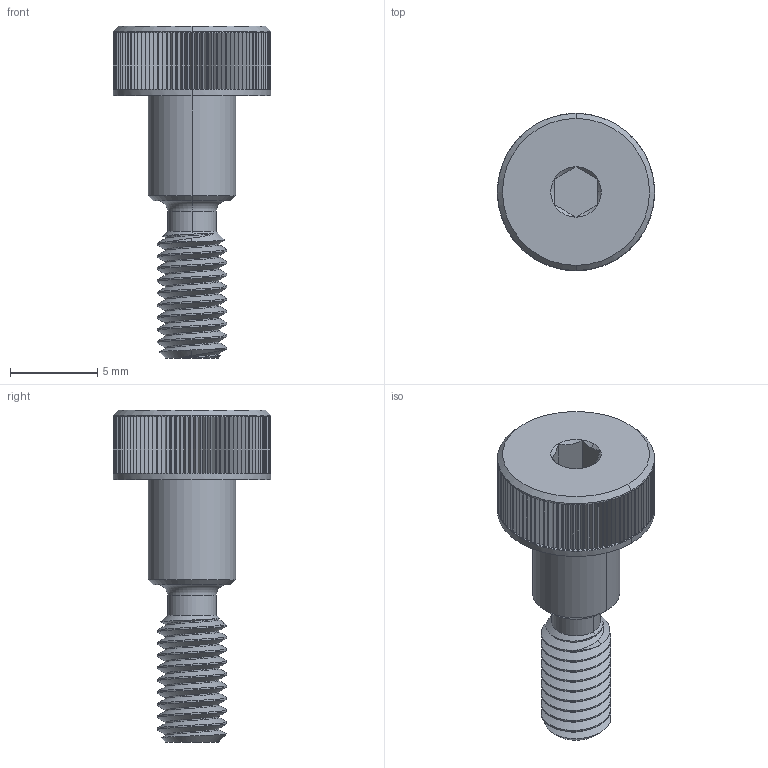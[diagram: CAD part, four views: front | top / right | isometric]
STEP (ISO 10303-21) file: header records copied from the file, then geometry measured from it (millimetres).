
FILE_DESCRIPTION (( 'STEP AP203' ), '1' );
FILE_NAME ('92981A146.STEP', '2018-01-15T16:16:09', ( '' ), ( '' ), 'SwSTEP 2.0', 'SolidWorks 2014', '' );
FILE_SCHEMA (( 'CONFIG_CONTROL_DESIGN' ));
Length unit declared in the file: millimetre
Products named in the file (1): 92981A146
Bounding box: 9 x 9 x 19 mm (x, y, z)
Volume: 430.9 mm3; surface area: 587.6 mm2
Topology: 1 solids, 1 shells, 453 faces, 1030 edges, 680 vertices
Faces by surface type: plane 407, cylinder 24, cone 17, bspline 3, torus 2
Entity records: 14216 total; most frequent: CARTESIAN_POINT 3836, DIRECTION 2104, ORIENTED_EDGE 2060, EDGE_CURVE 1030, LINE 740, VECTOR 740, AXIS2_PLACEMENT_3D 682, VERTEX_POINT 680
